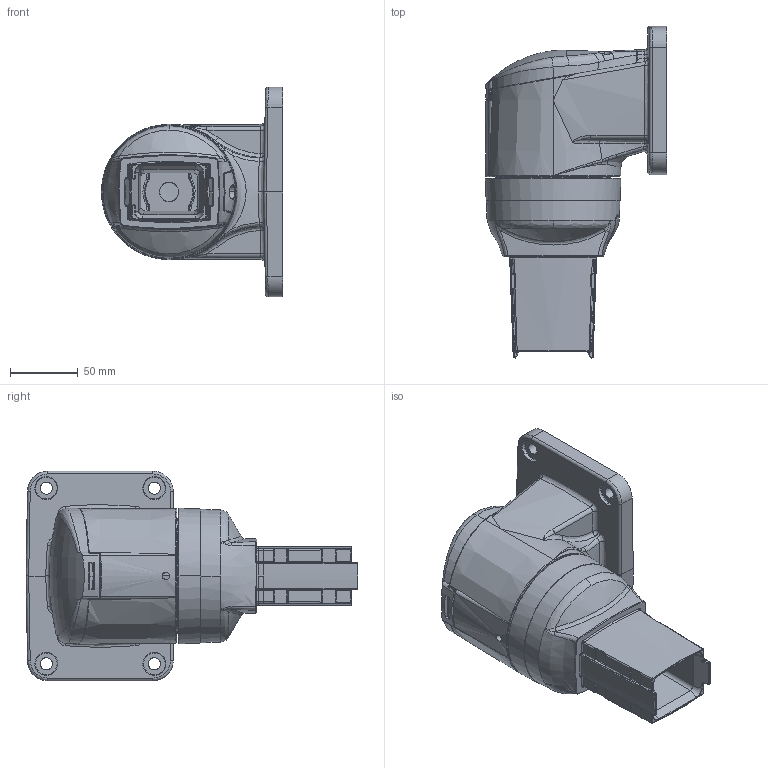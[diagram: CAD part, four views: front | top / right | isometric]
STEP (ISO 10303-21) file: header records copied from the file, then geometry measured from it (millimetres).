
FILE_DESCRIPTION (( 'STEP AP203' ), '1' );
FILE_NAME ('s1mwjvg.STEP', '2015-11-11T19:42:40', ( '' ), ( '' ), 'SwSTEP 2.0', 'SolidWorks 2014', '' );
FILE_SCHEMA (( 'CONFIG_CONTROL_DESIGN' ));
Products named in the file (2): 89128255; s1mwjvg
Assembly tree (1 placements, depth 2):
  s1mwjvg
    89128255
Bounding box: 134.13 x 245.7 x 155 mm (x, y, z)
Volume: 550918.5 mm3; surface area: 223479.4 mm2
Topology: 3 solids, 4 shells, 1541 faces, 3829 edges, 2257 vertices
Faces by surface type: bspline 612, cylinder 490, plane 328, cone 106, torus 5
Entity records: 91797 total; most frequent: CARTESIAN_POINT 61319, ORIENTED_EDGE 7490, DIRECTION 4645, EDGE_CURVE 3745, VERTEX_POINT 2257, AXIS2_PLACEMENT_3D 1719, EDGE_LOOP 1618, FACE_OUTER_BOUND 1544
